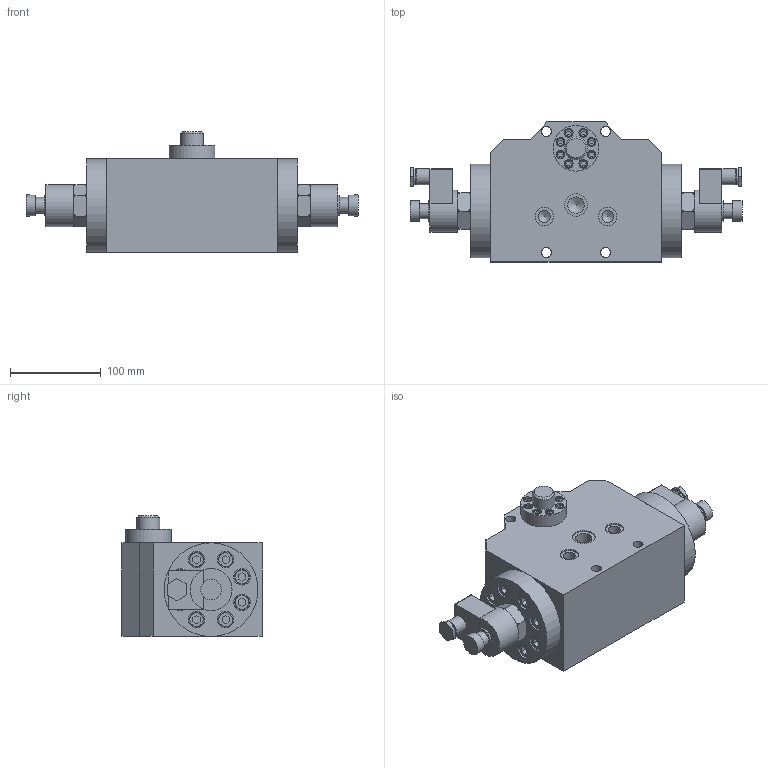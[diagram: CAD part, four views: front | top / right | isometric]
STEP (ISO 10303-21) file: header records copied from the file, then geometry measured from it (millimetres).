
FILE_DESCRIPTION(/* description */ (''),/* implementation_level */ '2;1');
FILE_NAME(/* name */ '数字3.stp',/* time_stamp */ '2023-05-01T20:43:55+08:00',/* author */ (''),/* organization */ (''),/* preprocessor_version */ 'ST-DEVELOPER v16.7',/* originating_system */ 'SIEMENS PLM Software NX 12.0',/* authorisation */ '');
FILE_SCHEMA (('AUTOMOTIVE_DESIGN { 1 0 10303 214 3 1 1 1 }'));
Length unit declared in the file: millimetre
Products named in the file (1): 数字3
Bounding box: 365.03 x 154 x 133 mm (x, y, z)
Volume: 3346480.1 mm3; surface area: 333734.9 mm2
Topology: 51 solids, 51 shells, 798 faces, 1892 edges, 1247 vertices
Faces by surface type: plane 471, cylinder 203, torus 72, cone 52
Full cylindrical faces by diameter (mm): 4.2 x8, 5 x8, 5.5 x8, 8.5 x24, 9.5 x8, 10 x16, 11 x20, 13 x2, 16 x18, 16.666 x2, 18 x21, 20 x2, 22.666 x4, 25 x1, 25.101 x2, 46.188 x2, 50.299 x1, 103 x2
Entity records: 21993 total; most frequent: CARTESIAN_POINT 4356, DIRECTION 3580, ORIENTED_EDGE 3062, EDGE_CURVE 1531, AXIS2_PLACEMENT_3D 1346, EDGE_LOOP 1204, VERTEX_POINT 1162, LINE 888
